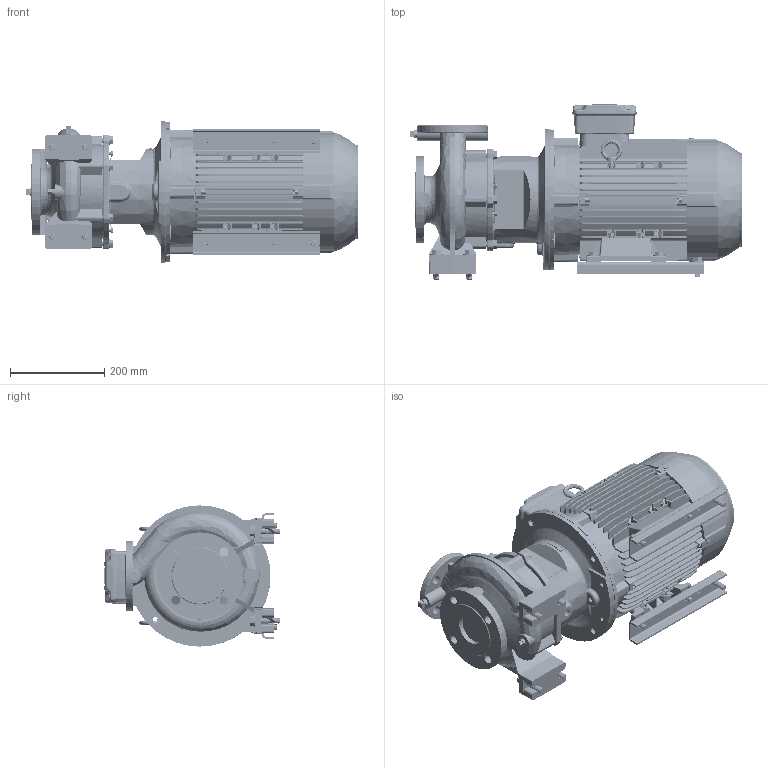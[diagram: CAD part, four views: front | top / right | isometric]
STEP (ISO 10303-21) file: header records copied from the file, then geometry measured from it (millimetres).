
FILE_DESCRIPTION (( 'STEP AP214' ), '1' );
FILE_NAME ('GSD2 40-160_5.5 & 7.5_(132S)_W21.STEP', '2026-07-02T05:24:04', ( '' ), ( '' ), 'SwSTEP 2.0', 'SolidWorks 2024', '' );
FILE_SCHEMA (( 'AUTOMOTIVE_DESIGN' ));
Length unit declared in the file: inch
Products named in the file (21): Parametric bolt and washer_SFT-A253B.STEP; Parametric bolt_SFT-A253B.STEP; Parametric Flat Washer_M12.STEP; Parametric bolt and washer_SFT-A301B-1.STEP; Parametric bolt_SFT-A309B.STEP; 40-160-132S.STEP; Parametric bolt_SFT-A301B.STEP; Parametric bolt and washer_SFT-A301B.STEP; Parametric bolt and washer_SFT-A309B-3.STEP; GSD2  40-160_5.5 & 7.5_(132S)_W21; Parametric bolt and washer_SFT-A253B-1.STEP; Parametric bolt and washer_SFT-A253B-2.STEP; Parametric Flat Washer_M10.STEP; Parametric bolt and washer_SFT-A309B.STEP; 132S ALIE3W21T_B35.STEP; 140_178 x 25 - CGSDA-5240.STEP; Parametric bolt and washer_SFT-A309B-2.STEP; CGS11-5301_2_3_4_5_CGS11-5302.STEP; Parametric bolt and washer_SFT-A253B-3.STEP; Parametric bolt and washer_SFT-A309B-1.STEP
Assembly tree (37 placements, depth 4):
  GSD2  40-160_5.5 & 7.5_(132S)_W21
    40-160-132S.STEP
      Parametric bolt and washer_SFT-A309B.STEP
        Parametric bolt_SFT-A309B.STEP
        Parametric Flat Washer_M12.STEP
      Parametric bolt and washer_SFT-A309B-1.STEP
        Parametric bolt_SFT-A309B.STEP
        Parametric Flat Washer_M12.STEP
      Parametric bolt and washer_SFT-A309B-2.STEP
        Parametric bolt_SFT-A309B.STEP
        Parametric Flat Washer_M12.STEP
      Parametric bolt and washer_SFT-A309B-3.STEP
        Parametric bolt_SFT-A309B.STEP
        Parametric Flat Washer_M12.STEP
      Parametric bolt and washer_SFT-A301B.STEP
        Parametric bolt_SFT-A301B.STEP
        Parametric Flat Washer_M12.STEP
      Parametric bolt and washer_SFT-A301B-1.STEP
        Parametric bolt_SFT-A301B.STEP
        Parametric Flat Washer_M12.STEP
      Parametric bolt and washer_SFT-A253B.STEP
        Parametric bolt_SFT-A253B.STEP
        Parametric Flat Washer_M10.STEP
      Parametric bolt and washer_SFT-A253B-1.STEP
        Parametric bolt_SFT-A253B.STEP
        Parametric Flat Washer_M10.STEP
      Parametric bolt and washer_SFT-A253B-2.STEP
        Parametric bolt_SFT-A253B.STEP
        Parametric Flat Washer_M10.STEP
      Parametric bolt and washer_SFT-A253B-3.STEP
        Parametric bolt_SFT-A253B.STEP
        Parametric Flat Washer_M10.STEP
      40-160-132S.STEP
      CGS11-5301_2_3_4_5_CGS11-5302.STEP  x2
      140_178 x 25 - CGSDA-5240.STEP  x2
      132S ALIE3W21T_B35.STEP
Bounding box: 705.45 x 372.5 x 300 mm (x, y, z)
Volume: 26886198.6 mm3; surface area: 1893210.4 mm2
Topology: 38 solids, 38 shells, 4850 faces, 12679 edges, 8244 vertices
Faces by surface type: plane 2904, cylinder 1144, torus 305, bspline 250, cone 215, sphere 32
Entity records: 168077 total; most frequent: CARTESIAN_POINT 60961, ORIENTED_EDGE 22952, DIRECTION 20829, EDGE_CURVE 11476, VECTOR 7699, LINE 7699, VERTEX_POINT 7471, AXIS2_PLACEMENT_3D 6565
